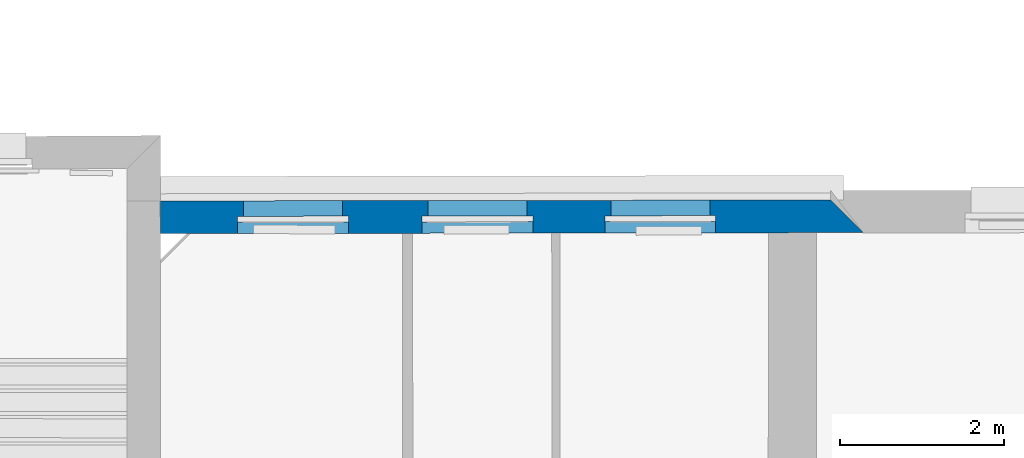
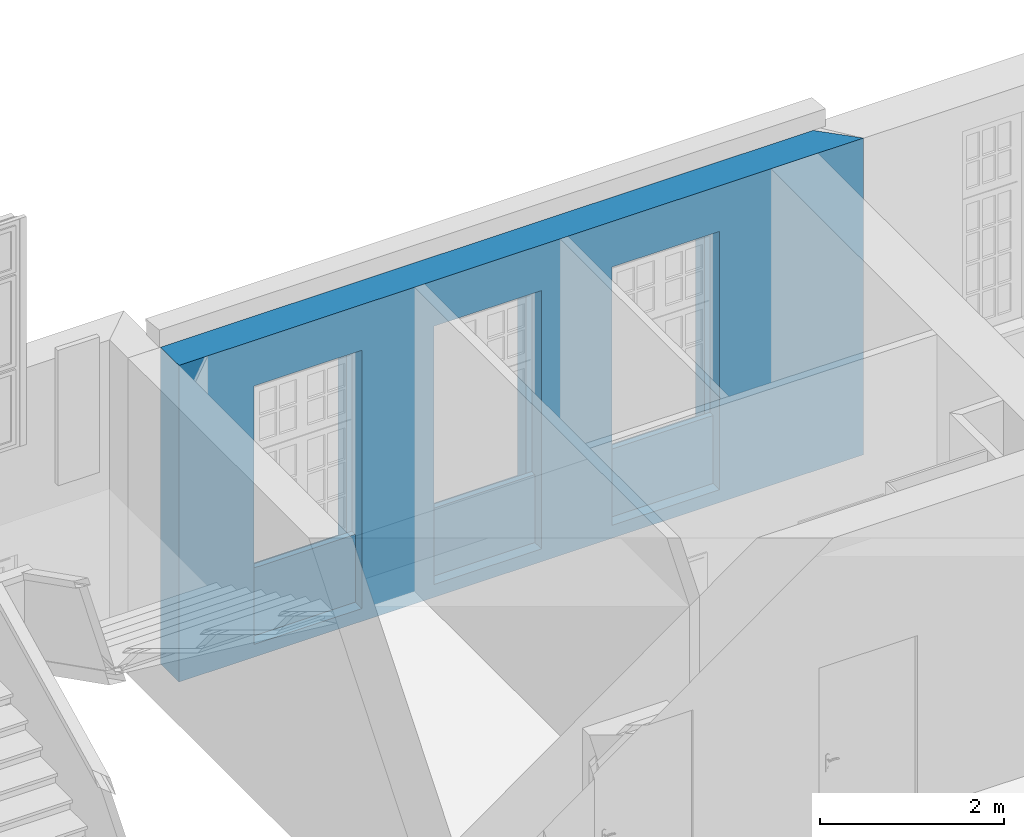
# One storey, part 32 of 90: 1 wall, 3 openings.
"""IFC2X3 building model written with IfcOpenShell, lengths in metres."""

from ifc_helpers import new_model, entity, si_unit, converted_unit, derived_unit, money_unit, direction, frame, origin_with_axes, origin_2d_with_axis, place, context, subcontext, project, spatial, polyline, rectangle, outline, extrude, material, layer, layer_set, layer_usage, type_object, element, save


model = new_model("IFC2X3")

# Units and contexts
model_context = context("Model", 3, precision=1e-05, world=origin_with_axes(), true_north=direction((0.0, 1.0)))
body_context = subcontext(model_context, "Body", "Model", "MODEL_VIEW")
ifc_project = project(units=[si_unit("LENGTHUNIT", "METRE"), si_unit("AREAUNIT", "SQUARE_METRE"), si_unit("VOLUMEUNIT", "CUBIC_METRE"), converted_unit("PLANEANGLEUNIT", "DEGREE", entity("IfcPlaneAngleMeasure", 0.0174532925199), si_unit("PLANEANGLEUNIT", "RADIAN"), dimensions=[0, 0, 0, 0, 0, 0, 0]), money_unit("EUR"), converted_unit("TIMEUNIT", "Year", entity("IfcTimeMeasure", 31556926.0), si_unit("TIMEUNIT", "SECOND"), dimensions=[0, 0, 1, 0, 0, 0, 0]), si_unit("MASSUNIT", "GRAM", prefix="KILO"), si_unit("THERMODYNAMICTEMPERATUREUNIT", "DEGREE_CELSIUS"), si_unit("LUMINOUSINTENSITYUNIT", "LUMEN"), si_unit("ENERGYUNIT", "JOULE", prefix="MEGA"), derived_unit("THERMALCONDUCTANCEUNIT", [(si_unit("POWERUNIT", "WATT"), 1), (si_unit("LENGTHUNIT", "METRE"), -1), (si_unit("THERMODYNAMICTEMPERATUREUNIT", "KELVIN"), -1)]), derived_unit("SPECIFICHEATCAPACITYUNIT", [(si_unit("ENERGYUNIT", "JOULE"), 1), (si_unit("MASSUNIT", "GRAM", prefix="KILO"), -1), (si_unit("THERMODYNAMICTEMPERATUREUNIT", "KELVIN"), -1)]), derived_unit("MASSDENSITYUNIT", [(si_unit("MASSUNIT", "GRAM", prefix="KILO"), 1), (si_unit("VOLUMEUNIT", "CUBIC_METRE"), -1)])], contexts=[model_context])

# Site, building, storey
site_placement = place(None, origin_with_axes())
site = spatial("IfcSite", under=ifc_project, at=site_placement, Name="Gelände", CompositionType="ELEMENT")
building_placement = place(site_placement, origin_with_axes())
building = spatial("IfcBuilding", under=site, at=building_placement, Name="Gebäude", CompositionType="ELEMENT")
storey_placement = place(building_placement, frame((0.0, 0.0, 3.7), z_axis=(0.0, 0.0, 1.0), x_axis=(1.0, 0.0, 0.0)))
storey = spatial("IfcBuildingStorey", under=building, at=storey_placement, Name="1.OBERGESCHOSS", CompositionType="ELEMENT", Elevation=3.7)

# Wall, openings
ifc_material = material(Name="05_ALLGEMEIN - TRAGENDE BAUTEILE")
ifc_layer = layer(ifc_material, 0.4, ventilated="UNKNOWN")
ifc_layer_set = layer_set([ifc_layer], Name="05_ALLGEMEIN - TRAGENDE BAUTEILE 0.4")
ifc_layer_usage = layer_usage(ifc_layer_set, "AXIS2", "NEGATIVE", 0.4)
wall_type = type_object("IfcWallType", Name="05_ALLGEMEIN - TRAGENDE BAUTEILE 400", PredefinedType="ELEMENTEDWALL")
wall_placement = place(storey_placement, frame((3.73053516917, 26.072638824, -0.1), z_axis=(0.0, 0.0, 1.0), x_axis=(-0.999999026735, -0.00139518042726, 0.0)))
wall = element("IfcWallStandardCase", 1, at=wall_placement, inside=storey, type_object=wall_type, material=ifc_layer_usage, Name="Wand-029", ObjectType="ELEMENTEDWALL", context=body_context, shape_type="SweptSolid", body=[
    extrude(outline(polyline([(0.0, 0.0), (8.1928898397, 0.0), (8.19362427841, 0.4), (-0.399442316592, 0.4), (0.0, 0.0)])), origin_with_axes(), (0.0, 0.0, 1.0), 4.2),
])
opening_1_placement = place(wall_placement, frame((2.08240111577, 0.0, 1.07), z_axis=(0.0, 0.0, 1.0), x_axis=(1.0, 0.0, 0.0)))
element("IfcOpeningElement", 2, at=opening_1_placement, cuts=wall, Name="Fenster-015", context=body_context, shape_type="SweptSolid", body=[
    extrude(rectangle(XDim=1.35197006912, YDim=1.14, at=origin_2d_with_axis()), frame((0.0, 0.83, -0.9), z_axis=(0.0, 0.0, 1.0), x_axis=(1.0, 0.0, 0.0)), (0.0, 0.0, 1.0), 0.9),
    extrude(rectangle(XDim=1.21197006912, YDim=2.536, at=origin_2d_with_axis()), frame((0.0, 0.19, 1.128), z_axis=(0.0, 1.0, 0.0), x_axis=(1.0, 0.0, 0.0)), (0.0, 0.0, -1.0), 0.59),
    extrude(rectangle(XDim=1.35197006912, YDim=2.526, at=origin_2d_with_axis()), frame((0.0, 0.26, 1.263), z_axis=(0.0, -1.0, 0.0), x_axis=(1.0, 0.0, 0.0)), (0.0, 0.0, -1.0), 0.54),
    extrude(rectangle(XDim=1.35197006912, YDim=2.466, at=origin_2d_with_axis()), frame((0.0, 0.19, 1.233), z_axis=(0.0, 1.0, 0.0), x_axis=(1.0, 0.0, 0.0)), (0.0, 0.0, 1.0), 0.07),
])
opening_2_placement = place(wall_placement, frame((4.31888299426, 0.0, 1.07), z_axis=(0.0, 0.0, 1.0), x_axis=(1.0, 0.0, 0.0)))
element("IfcOpeningElement", 3, at=opening_2_placement, cuts=wall, Name="Fenster-015", context=body_context, shape_type="SweptSolid", body=[
    extrude(rectangle(XDim=1.35197006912, YDim=1.14, at=origin_2d_with_axis()), frame((0.0, 0.83, -0.9), z_axis=(0.0, 0.0, 1.0), x_axis=(1.0, 0.0, 0.0)), (0.0, 0.0, 1.0), 0.9),
    extrude(rectangle(XDim=1.21197006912, YDim=2.536, at=origin_2d_with_axis()), frame((0.0, 0.19, 1.128), z_axis=(0.0, 1.0, 0.0), x_axis=(1.0, 0.0, 0.0)), (0.0, 0.0, -1.0), 0.59),
    extrude(rectangle(XDim=1.35197006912, YDim=2.526, at=origin_2d_with_axis()), frame((0.0, 0.26, 1.263), z_axis=(0.0, -1.0, 0.0), x_axis=(1.0, 0.0, 0.0)), (0.0, 0.0, -1.0), 0.54),
    extrude(rectangle(XDim=1.35197006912, YDim=2.466, at=origin_2d_with_axis()), frame((0.0, 0.19, 1.233), z_axis=(0.0, 1.0, 0.0), x_axis=(1.0, 0.0, 0.0)), (0.0, 0.0, 1.0), 0.07),
])
opening_3_placement = place(wall_placement, frame((6.57441591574, 0.0, 1.07), z_axis=(0.0, 0.0, 1.0), x_axis=(1.0, 0.0, 0.0)))
element("IfcOpeningElement", 4, at=opening_3_placement, cuts=wall, Name="Fenster-015", context=body_context, shape_type="SweptSolid", body=[
    extrude(rectangle(XDim=1.35197006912, YDim=1.14, at=origin_2d_with_axis()), frame((0.0, 0.83, -0.9), z_axis=(0.0, 0.0, 1.0), x_axis=(1.0, 0.0, 0.0)), (0.0, 0.0, 1.0), 0.9),
    extrude(rectangle(XDim=1.21197006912, YDim=2.536, at=origin_2d_with_axis()), frame((0.0, 0.19, 1.128), z_axis=(0.0, 1.0, 0.0), x_axis=(1.0, 0.0, 0.0)), (0.0, 0.0, -1.0), 0.59),
    extrude(rectangle(XDim=1.35197006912, YDim=2.526, at=origin_2d_with_axis()), frame((0.0, 0.26, 1.263), z_axis=(0.0, -1.0, 0.0), x_axis=(1.0, 0.0, 0.0)), (0.0, 0.0, -1.0), 0.54),
    extrude(rectangle(XDim=1.35197006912, YDim=2.466, at=origin_2d_with_axis()), frame((0.0, 0.19, 1.233), z_axis=(0.0, 1.0, 0.0), x_axis=(1.0, 0.0, 0.0)), (0.0, 0.0, 1.0), 0.07),
])

save(model, "model.ifc")
